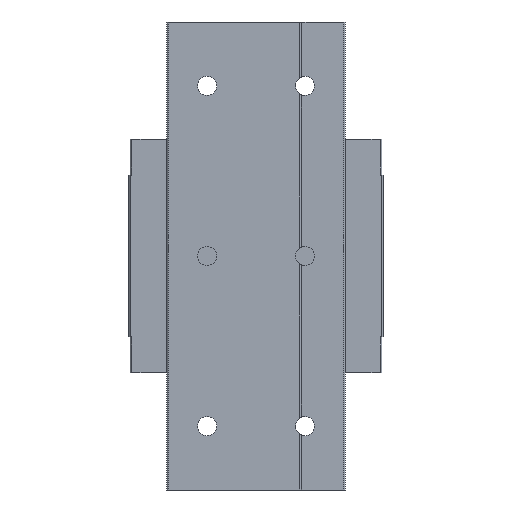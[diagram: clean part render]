
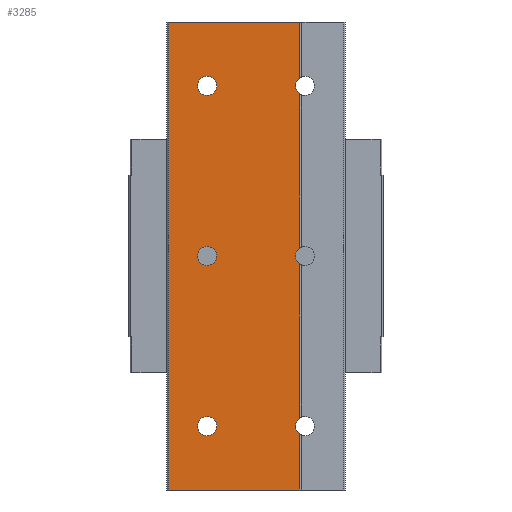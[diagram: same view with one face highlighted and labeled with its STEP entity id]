
A CAD part, front view. The second image highlights one B-rep face of the part: STEP entity #3285.
In plain terms, the highlighted planar face has unit normal (0, -1, 0).
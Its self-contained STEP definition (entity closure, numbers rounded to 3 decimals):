
#1967=DIRECTION('',(0.,0.,-1.));
#1968=VECTOR('',#1967,13.164);
#1969=CARTESIAN_POINT('',(10.2,0.,-41.836));
#1970=LINE('',#1969,#1968);
#2048=DIRECTION('',(-1.,0.,0.));
#2049=VECTOR('',#2048,30.8);
#2050=CARTESIAN_POINT('',(10.2,0.,-55.));
#2051=LINE('',#2050,#2049);
#2319=DIRECTION('',(-1.,0.,0.));
#2320=VECTOR('',#2319,30.8);
#2321=CARTESIAN_POINT('',(10.2,0.,55.));
#2322=LINE('',#2321,#2320);
#2323=CARTESIAN_POINT('',(11.5,0.,40.));
#2324=DIRECTION('',(0.,1.,0.));
#2325=DIRECTION('',(-0.578,0.,-0.816));
#2326=AXIS2_PLACEMENT_3D('',#2323,#2324,#2325);
#2328=CARTESIAN_POINT('',(11.5,0.,0.));
#2329=DIRECTION('',(0.,1.,0.));
#2330=DIRECTION('',(-0.578,0.,-0.816));
#2331=AXIS2_PLACEMENT_3D('',#2328,#2329,#2330);
#2333=CARTESIAN_POINT('',(11.5,0.,-40.));
#2334=DIRECTION('',(0.,1.,0.));
#2335=DIRECTION('',(-0.578,0.,-0.816));
#2336=AXIS2_PLACEMENT_3D('',#2333,#2334,#2335);
#2338=CARTESIAN_POINT('',(-11.5,0.,-40.));
#2339=DIRECTION('',(0.,1.,0.));
#2340=DIRECTION('',(-1.,0.,0.));
#2341=AXIS2_PLACEMENT_3D('',#2338,#2339,#2340);
#2343=CARTESIAN_POINT('',(-11.5,0.,-40.));
#2344=DIRECTION('',(0.,1.,0.));
#2345=DIRECTION('',(0.,0.,-1.));
#2346=AXIS2_PLACEMENT_3D('',#2343,#2344,#2345);
#2348=CARTESIAN_POINT('',(-11.5,0.,-40.));
#2349=DIRECTION('',(0.,1.,0.));
#2350=DIRECTION('',(1.,0.,0.));
#2351=AXIS2_PLACEMENT_3D('',#2348,#2349,#2350);
#2353=CARTESIAN_POINT('',(-11.5,0.,-40.));
#2354=DIRECTION('',(0.,1.,0.));
#2355=DIRECTION('',(0.,0.,1.));
#2356=AXIS2_PLACEMENT_3D('',#2353,#2354,#2355);
#2358=CARTESIAN_POINT('',(-11.5,0.,0.));
#2359=DIRECTION('',(0.,1.,0.));
#2360=DIRECTION('',(-1.,0.,0.));
#2361=AXIS2_PLACEMENT_3D('',#2358,#2359,#2360);
#2363=CARTESIAN_POINT('',(-11.5,0.,0.));
#2364=DIRECTION('',(0.,1.,0.));
#2365=DIRECTION('',(0.,0.,-1.));
#2366=AXIS2_PLACEMENT_3D('',#2363,#2364,#2365);
#2368=CARTESIAN_POINT('',(-11.5,0.,0.));
#2369=DIRECTION('',(0.,1.,0.));
#2370=DIRECTION('',(1.,0.,0.));
#2371=AXIS2_PLACEMENT_3D('',#2368,#2369,#2370);
#2373=CARTESIAN_POINT('',(-11.5,0.,0.));
#2374=DIRECTION('',(0.,1.,0.));
#2375=DIRECTION('',(0.,0.,1.));
#2376=AXIS2_PLACEMENT_3D('',#2373,#2374,#2375);
#2378=CARTESIAN_POINT('',(-11.5,0.,40.));
#2379=DIRECTION('',(0.,1.,0.));
#2380=DIRECTION('',(-1.,0.,0.));
#2381=AXIS2_PLACEMENT_3D('',#2378,#2379,#2380);
#2383=CARTESIAN_POINT('',(-11.5,0.,40.));
#2384=DIRECTION('',(0.,1.,0.));
#2385=DIRECTION('',(0.,0.,-1.));
#2386=AXIS2_PLACEMENT_3D('',#2383,#2384,#2385);
#2388=CARTESIAN_POINT('',(-11.5,0.,40.));
#2389=DIRECTION('',(0.,1.,0.));
#2390=DIRECTION('',(1.,0.,0.));
#2391=AXIS2_PLACEMENT_3D('',#2388,#2389,#2390);
#2393=CARTESIAN_POINT('',(-11.5,0.,40.));
#2394=DIRECTION('',(0.,1.,0.));
#2395=DIRECTION('',(0.,0.,1.));
#2396=AXIS2_PLACEMENT_3D('',#2393,#2394,#2395);
#2398=DIRECTION('',(0.,0.,-1.));
#2399=VECTOR('',#2398,13.164);
#2400=CARTESIAN_POINT('',(10.2,0.,55.));
#2401=LINE('',#2400,#2399);
#2464=DIRECTION('',(0.,0.,-1.));
#2465=VECTOR('',#2464,36.327);
#2466=CARTESIAN_POINT('',(10.2,0.,38.164));
#2467=LINE('',#2466,#2465);
#2530=DIRECTION('',(0.,0.,-1.));
#2531=VECTOR('',#2530,36.327);
#2532=CARTESIAN_POINT('',(10.2,0.,-1.836));
#2533=LINE('',#2532,#2531);
#2538=DIRECTION('',(0.,0.,1.));
#2539=VECTOR('',#2538,110.);
#2540=CARTESIAN_POINT('',(-20.6,0.,-55.));
#2541=LINE('',#2540,#2539);
#2662=CARTESIAN_POINT('',(10.2,0.,-41.836));
#2663=CARTESIAN_POINT('',(10.2,0.,-55.));
#2664=VERTEX_POINT('',#2662);
#2665=VERTEX_POINT('',#2663);
#2666=CARTESIAN_POINT('',(10.2,0.,-1.836));
#2667=CARTESIAN_POINT('',(10.2,0.,-38.164));
#2668=VERTEX_POINT('',#2666);
#2669=VERTEX_POINT('',#2667);
#2674=CARTESIAN_POINT('',(10.2,0.,38.164));
#2675=CARTESIAN_POINT('',(10.2,0.,1.836));
#2676=VERTEX_POINT('',#2674);
#2677=VERTEX_POINT('',#2675);
#2682=CARTESIAN_POINT('',(10.2,0.,55.));
#2683=CARTESIAN_POINT('',(-20.6,0.,55.));
#2684=VERTEX_POINT('',#2682);
#2685=VERTEX_POINT('',#2683);
#2686=CARTESIAN_POINT('',(-20.6,0.,-55.));
#2687=VERTEX_POINT('',#2686);
#2688=CARTESIAN_POINT('',(10.2,0.,41.836));
#2689=VERTEX_POINT('',#2688);
#2747=CARTESIAN_POINT('',(-11.5,0.,42.25));
#2749=VERTEX_POINT('',#2747);
#2751=CARTESIAN_POINT('',(-11.5,0.,37.75));
#2753=VERTEX_POINT('',#2751);
#2754=CARTESIAN_POINT('',(-9.25,0.,40.));
#2755=VERTEX_POINT('',#2754);
#2756=CARTESIAN_POINT('',(-13.75,0.,40.));
#2757=VERTEX_POINT('',#2756);
#2767=CARTESIAN_POINT('',(-11.5,0.,2.25));
#2769=VERTEX_POINT('',#2767);
#2771=CARTESIAN_POINT('',(-11.5,0.,-2.25));
#2773=VERTEX_POINT('',#2771);
#2774=CARTESIAN_POINT('',(-9.25,0.,0.));
#2775=VERTEX_POINT('',#2774);
#2776=CARTESIAN_POINT('',(-13.75,0.,0.));
#2777=VERTEX_POINT('',#2776);
#2787=CARTESIAN_POINT('',(-11.5,0.,-37.75));
#2789=VERTEX_POINT('',#2787);
#2791=CARTESIAN_POINT('',(-11.5,0.,-42.25));
#2793=VERTEX_POINT('',#2791);
#2794=CARTESIAN_POINT('',(-9.25,0.,-40.));
#2795=VERTEX_POINT('',#2794);
#2796=CARTESIAN_POINT('',(-13.75,0.,-40.));
#2797=VERTEX_POINT('',#2796);
#3232=CARTESIAN_POINT('',(-21.,0.,55.));
#3233=DIRECTION('',(0.,1.,0.));
#3234=DIRECTION('',(-1.,0.,0.));
#3235=AXIS2_PLACEMENT_3D('',#3232,#3233,#3234);
#3236=PLANE('',#3235);
#3237=ORIENTED_EDGE('',*,*,#3017,.F.);
#3239=ORIENTED_EDGE('',*,*,#3238,.T.);
#3241=ORIENTED_EDGE('',*,*,#3240,.F.);
#3243=ORIENTED_EDGE('',*,*,#3242,.T.);
#3245=ORIENTED_EDGE('',*,*,#3244,.F.);
#3247=ORIENTED_EDGE('',*,*,#3246,.T.);
#3248=ORIENTED_EDGE('',*,*,#3223,.F.);
#3249=ORIENTED_EDGE('',*,*,#2869,.T.);
#3250=ORIENTED_EDGE('',*,*,#2932,.T.);
#3252=ORIENTED_EDGE('',*,*,#3251,.T.);
#3253=EDGE_LOOP('',(#3237,#3239,#3241,#3243,#3245,#3247,#3248,#3249,#3250,
#3252));
#3254=FACE_OUTER_BOUND('',#3253,.F.);
#3256=ORIENTED_EDGE('',*,*,#3255,.F.);
#3258=ORIENTED_EDGE('',*,*,#3257,.F.);
#3260=ORIENTED_EDGE('',*,*,#3259,.F.);
#3262=ORIENTED_EDGE('',*,*,#3261,.F.);
#3263=EDGE_LOOP('',(#3256,#3258,#3260,#3262));
#3264=FACE_BOUND('',#3263,.F.);
#3266=ORIENTED_EDGE('',*,*,#3265,.F.);
#3268=ORIENTED_EDGE('',*,*,#3267,.F.);
#3270=ORIENTED_EDGE('',*,*,#3269,.F.);
#3272=ORIENTED_EDGE('',*,*,#3271,.F.);
#3273=EDGE_LOOP('',(#3266,#3268,#3270,#3272));
#3274=FACE_BOUND('',#3273,.F.);
#3276=ORIENTED_EDGE('',*,*,#3275,.F.);
#3278=ORIENTED_EDGE('',*,*,#3277,.F.);
#3280=ORIENTED_EDGE('',*,*,#3279,.F.);
#3282=ORIENTED_EDGE('',*,*,#3281,.F.);
#3283=EDGE_LOOP('',(#3276,#3278,#3280,#3282));
#3284=FACE_BOUND('',#3283,.F.);
#3285=ADVANCED_FACE('',(#3254,#3264,#3274,#3284),#3236,.F.);
#2327=CIRCLE('',#2326,2.25);
#2332=CIRCLE('',#2331,2.25);
#2337=CIRCLE('',#2336,2.25);
#2342=CIRCLE('',#2341,2.25);
#2347=CIRCLE('',#2346,2.25);
#2352=CIRCLE('',#2351,2.25);
#2357=CIRCLE('',#2356,2.25);
#2362=CIRCLE('',#2361,2.25);
#2367=CIRCLE('',#2366,2.25);
#2372=CIRCLE('',#2371,2.25);
#2377=CIRCLE('',#2376,2.25);
#2382=CIRCLE('',#2381,2.25);
#2387=CIRCLE('',#2386,2.25);
#2392=CIRCLE('',#2391,2.25);
#2397=CIRCLE('',#2396,2.25);
#2869=EDGE_CURVE('',#2664,#2665,#1970,.T.);
#2932=EDGE_CURVE('',#2665,#2687,#2051,.T.);
#3017=EDGE_CURVE('',#2684,#2685,#2322,.T.);
#3223=EDGE_CURVE('',#2664,#2669,#2337,.T.);
#3238=EDGE_CURVE('',#2684,#2689,#2401,.T.);
#3240=EDGE_CURVE('',#2676,#2689,#2327,.T.);
#3242=EDGE_CURVE('',#2676,#2677,#2467,.T.);
#3244=EDGE_CURVE('',#2668,#2677,#2332,.T.);
#3246=EDGE_CURVE('',#2668,#2669,#2533,.T.);
#3251=EDGE_CURVE('',#2687,#2685,#2541,.T.);
#3255=EDGE_CURVE('',#2797,#2789,#2342,.T.);
#3257=EDGE_CURVE('',#2793,#2797,#2347,.T.);
#3259=EDGE_CURVE('',#2795,#2793,#2352,.T.);
#3261=EDGE_CURVE('',#2789,#2795,#2357,.T.);
#3265=EDGE_CURVE('',#2777,#2769,#2362,.T.);
#3267=EDGE_CURVE('',#2773,#2777,#2367,.T.);
#3269=EDGE_CURVE('',#2775,#2773,#2372,.T.);
#3271=EDGE_CURVE('',#2769,#2775,#2377,.T.);
#3275=EDGE_CURVE('',#2757,#2749,#2382,.T.);
#3277=EDGE_CURVE('',#2753,#2757,#2387,.T.);
#3279=EDGE_CURVE('',#2755,#2753,#2392,.T.);
#3281=EDGE_CURVE('',#2749,#2755,#2397,.T.);
